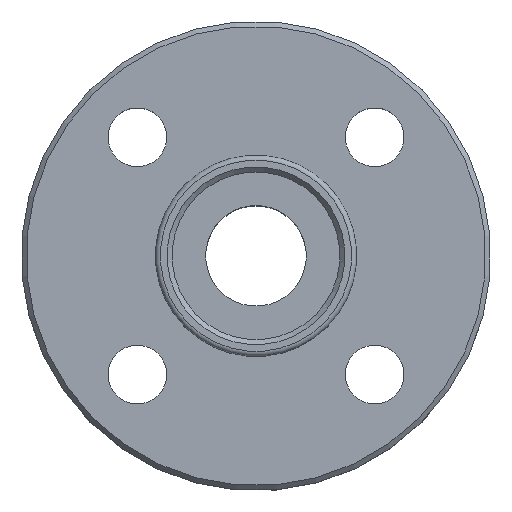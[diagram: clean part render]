
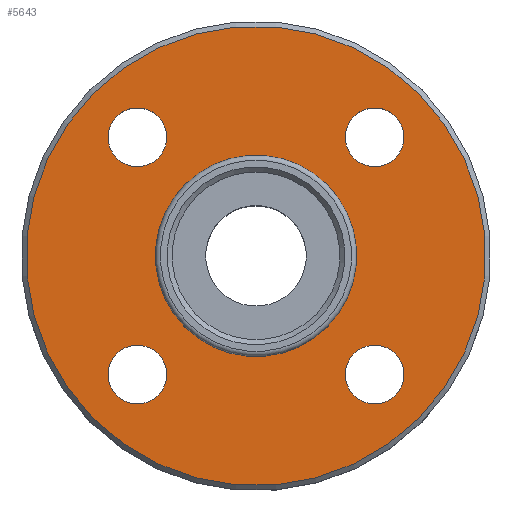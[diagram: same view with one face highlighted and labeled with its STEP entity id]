
A CAD part, top view. The second image highlights one B-rep face of the part: STEP entity #5643.
In plain terms, the highlighted planar face has unit normal (0, 0, 1).
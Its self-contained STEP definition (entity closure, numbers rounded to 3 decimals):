
#130=CIRCLE('',#6009,6.);
#139=CIRCLE('',#6024,13.7);
#140=CIRCLE('',#6025,1.75);
#141=CIRCLE('',#6026,1.75);
#142=CIRCLE('',#6027,1.75);
#143=CIRCLE('',#6028,1.75);
#549=ORIENTED_EDGE('',*,*,#2164,.T.);
#550=ORIENTED_EDGE('',*,*,#2165,.F.);
#551=ORIENTED_EDGE('',*,*,#2166,.F.);
#552=ORIENTED_EDGE('',*,*,#2167,.F.);
#553=ORIENTED_EDGE('',*,*,#2168,.F.);
#554=ORIENTED_EDGE('',*,*,#2155,.T.);
#2155=EDGE_CURVE('',#2964,#2964,#130,.F.);
#2164=EDGE_CURVE('',#2973,#2973,#139,.T.);
#2165=EDGE_CURVE('',#2974,#2974,#140,.T.);
#2166=EDGE_CURVE('',#2975,#2975,#141,.T.);
#2167=EDGE_CURVE('',#2976,#2976,#142,.T.);
#2168=EDGE_CURVE('',#2977,#2977,#143,.T.);
#2964=VERTEX_POINT('',#8928);
#2973=VERTEX_POINT('',#8952);
#2974=VERTEX_POINT('',#8954);
#2975=VERTEX_POINT('',#8956);
#2976=VERTEX_POINT('',#8958);
#2977=VERTEX_POINT('',#8960);
#4604=EDGE_LOOP('',(#549));
#4605=EDGE_LOOP('',(#550));
#4606=EDGE_LOOP('',(#551));
#4607=EDGE_LOOP('',(#552));
#4608=EDGE_LOOP('',(#553));
#4609=EDGE_LOOP('',(#554));
#5027=FACE_BOUND('',#4604,.T.);
#5028=FACE_BOUND('',#4605,.T.);
#5029=FACE_BOUND('',#4606,.T.);
#5030=FACE_BOUND('',#4607,.T.);
#5031=FACE_BOUND('',#4608,.T.);
#5032=FACE_BOUND('',#4609,.T.);
#5389=PLANE('',#6023);
#5643=ADVANCED_FACE('',(#5027,#5028,#5029,#5030,#5031,#5032),#5389,.T.);
#6009=AXIS2_PLACEMENT_3D('',#8927,#6535,#6536);
#6023=AXIS2_PLACEMENT_3D('',#8950,#6563,#6564);
#6024=AXIS2_PLACEMENT_3D('',#8951,#6565,#6566);
#6025=AXIS2_PLACEMENT_3D('',#8953,#6567,#6568);
#6026=AXIS2_PLACEMENT_3D('',#8955,#6569,#6570);
#6027=AXIS2_PLACEMENT_3D('',#8957,#6571,#6572);
#6028=AXIS2_PLACEMENT_3D('',#8959,#6573,#6574);
#6535=DIRECTION('',(0.,0.,1.));
#6536=DIRECTION('',(0.707,-0.707,0.));
#6563=DIRECTION('',(0.,0.,1.));
#6564=DIRECTION('',(0.707,-0.707,0.));
#6565=DIRECTION('',(0.,0.,1.));
#6566=DIRECTION('',(0.707,-0.707,0.));
#6567=DIRECTION('',(0.,0.,1.));
#6568=DIRECTION('',(0.707,-0.707,0.));
#6569=DIRECTION('',(0.,0.,1.));
#6570=DIRECTION('',(0.707,-0.707,0.));
#6571=DIRECTION('',(0.,0.,1.));
#6572=DIRECTION('',(0.707,-0.707,0.));
#6573=DIRECTION('',(0.,0.,1.));
#6574=DIRECTION('',(0.707,-0.707,0.));
#8927=CARTESIAN_POINT('',(0.,0.,0.));
#8928=CARTESIAN_POINT('',(4.243,-4.243,0.));
#8950=CARTESIAN_POINT('',(0.,0.,0.));
#8951=CARTESIAN_POINT('',(0.,0.,0.));
#8952=CARTESIAN_POINT('',(9.687,-9.687,0.));
#8953=CARTESIAN_POINT('',(7.071,7.071,0.));
#8954=CARTESIAN_POINT('',(8.309,5.834,0.));
#8955=CARTESIAN_POINT('',(-7.071,7.071,0.));
#8956=CARTESIAN_POINT('',(-5.834,5.834,0.));
#8957=CARTESIAN_POINT('',(-7.071,-7.071,0.));
#8958=CARTESIAN_POINT('',(-5.834,-8.309,0.));
#8959=CARTESIAN_POINT('',(7.071,-7.071,0.));
#8960=CARTESIAN_POINT('',(8.309,-8.309,0.));
